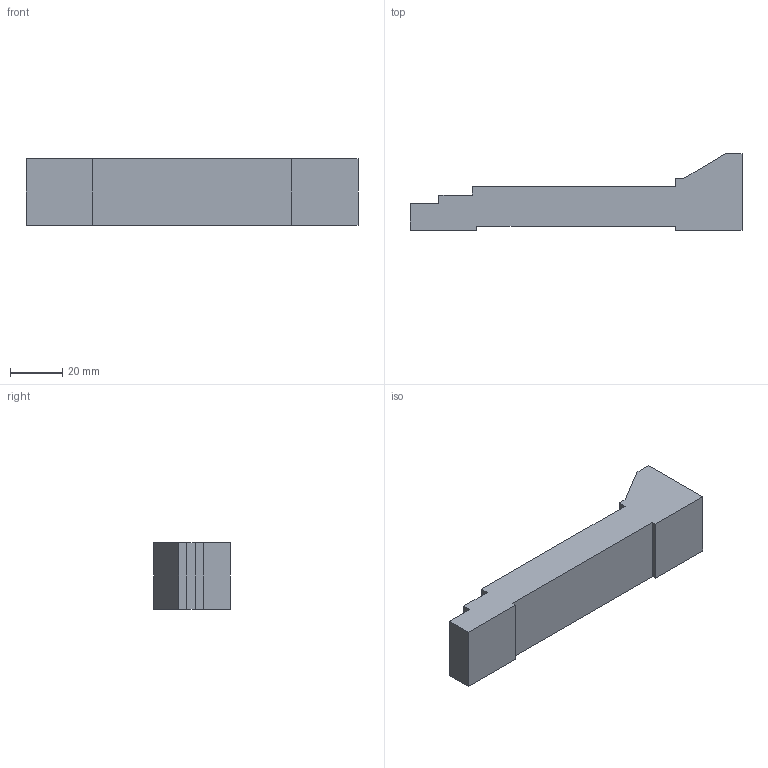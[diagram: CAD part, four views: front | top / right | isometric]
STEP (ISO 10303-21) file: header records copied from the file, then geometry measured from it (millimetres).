
FILE_DESCRIPTION (( 'STEP AP203' ), '1' );
FILE_NAME ('AB-HM9205-5 & 9205-2.STEP', '2023-08-25T14:09:42', ( '' ), ( '' ), 'SwSTEP 2.0', 'SolidWorks 2020', '' );
FILE_SCHEMA (( 'CONFIG_CONTROL_DESIGN' ));
Length unit declared in the file: inch
Products named in the file (1): AB-HM9205-5 & 9205-2
Bounding box: 127 x 29.36 x 25.4 mm (x, y, z)
Volume: 53451.2 mm3; surface area: 12055.8 mm2
Topology: 1 solids, 1 shells, 18 faces, 48 edges, 32 vertices
Faces by surface type: plane 18
Entity records: 631 total; most frequent: CARTESIAN_POINT 99, ORIENTED_EDGE 96, DIRECTION 86, VECTOR 48, LINE 48, EDGE_CURVE 48, VERTEX_POINT 32, AXIS2_PLACEMENT_3D 19
